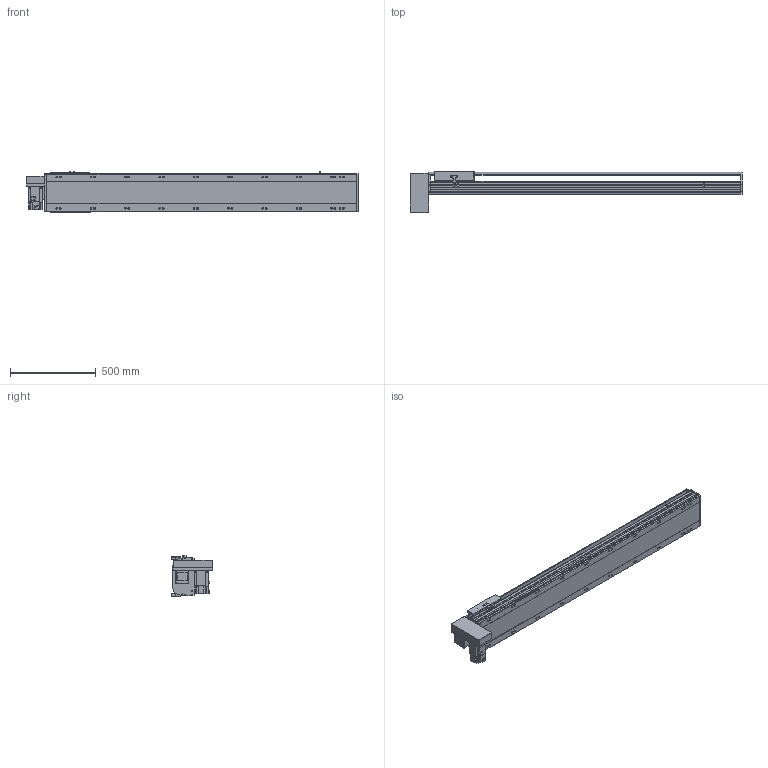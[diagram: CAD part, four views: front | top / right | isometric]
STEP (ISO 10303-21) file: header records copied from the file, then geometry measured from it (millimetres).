
FILE_DESCRIPTION(/* description */ ('STEP AP214'),/* implementation_level */ '2;1');
FILE_NAME(/* name */ 'PBS220-P40-S1450-RD-T75-C1-N(0)',/* time_stamp */ '2022-06-13T02:43:51+02:00',/* author */ ('License CC BY-ND 4.0'),/* organization */ ('CADENAS'),/* preprocessor_version */ 'ST-DEVELOPER v18.102',/* originating_system */ 'PARTsolutions',/* authorisation */ ' ');
FILE_SCHEMA (('AUTOMOTIVE_DESIGN {1 0 10303 214 3 1 1}'));
Length unit declared in the file: millimetre
Products named in the file (7): PBS220-P40-S1450-RD-T75-C1-N(0); PBS220_sensor; PBS220_plant; PBS220_sliser; T75-p1; PBS220T-RD_motors; PBS220-S1450()_body
Assembly tree (8 placements, depth 2):
  PBS220-P40-S1450-RD-T75-C1-N(0)
    PBS220_sensor  x3
    PBS220_plant
    PBS220_sliser
    T75-p1
    PBS220T-RD_motors
    PBS220-S1450()_body
Bounding box: 1934 x 239 x 238.5 mm (x, y, z)
Volume: 27512408 mm3; surface area: 2617709.2 mm2
Topology: 8 solids, 8 shells, 938 faces, 2452 edges, 1594 vertices
Faces by surface type: plane 606, cylinder 288, cone 44
Full cylindrical faces by diameter (mm): 2.013 x4, 4.5 x14, 4.917 x4, 6 x7, 6.647 x8, 8 x10, 8.376 x20, 8.5 x20, 10 x6, 14 x20, 38 x2, 40 x1, 70 x1
Entity records: 26253 total; most frequent: CARTESIAN_POINT 4624, DIRECTION 4563, ORIENTED_EDGE 4178, EDGE_CURVE 2089, AXIS2_PLACEMENT_3D 1607, VERTEX_POINT 1448, LINE 1349, VECTOR 1349
